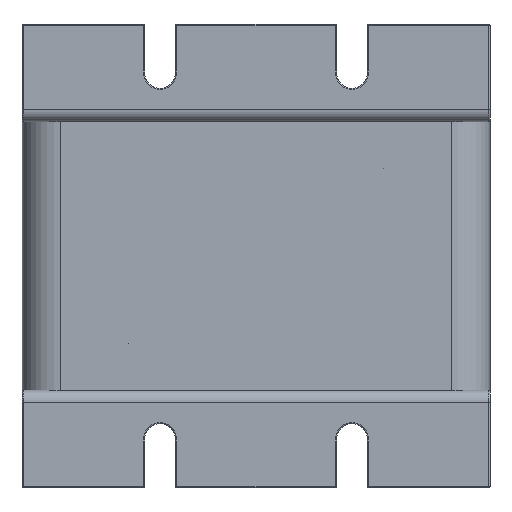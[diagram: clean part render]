
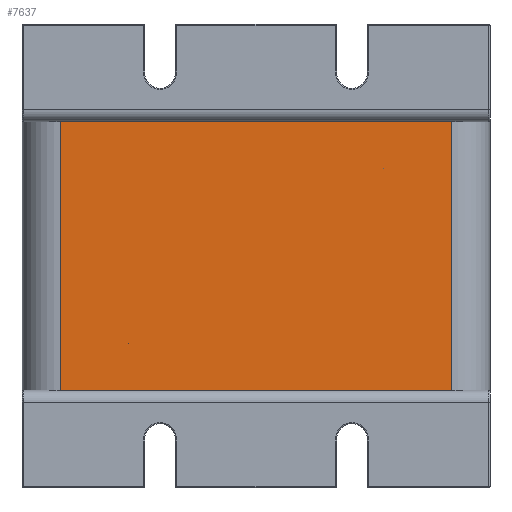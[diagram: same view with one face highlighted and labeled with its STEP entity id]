
A CAD part, front view. The second image highlights one B-rep face of the part: STEP entity #7637.
In plain terms, the highlighted planar face has unit normal (0, -1, 0).
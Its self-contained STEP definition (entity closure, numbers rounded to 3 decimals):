
#759=FACE_OUTER_BOUND('',#1240,.T.);
#1240=EDGE_LOOP('',(#5207,#5208,#5209,#5210));
#2129=LINE('',#11497,#2740);
#2142=LINE('',#11535,#2753);
#2144=LINE('',#11539,#2755);
#2145=LINE('',#11540,#2756);
#2740=VECTOR('',#9217,10.);
#2753=VECTOR('',#9244,10.);
#2755=VECTOR('',#9248,10.);
#2756=VECTOR('',#9249,10.);
#3352=VERTEX_POINT('',#11494);
#3353=VERTEX_POINT('',#11496);
#3371=VERTEX_POINT('',#11533);
#3372=VERTEX_POINT('',#11538);
#4057=EDGE_CURVE('',#3352,#3353,#2129,.T.);
#4076=EDGE_CURVE('',#3371,#3352,#2142,.T.);
#4078=EDGE_CURVE('',#3371,#3372,#2144,.T.);
#4079=EDGE_CURVE('',#3372,#3353,#2145,.T.);
#5207=ORIENTED_EDGE('',*,*,#4078,.T.);
#5208=ORIENTED_EDGE('',*,*,#4079,.T.);
#5209=ORIENTED_EDGE('',*,*,#4057,.F.);
#5210=ORIENTED_EDGE('',*,*,#4076,.F.);
#7439=PLANE('',#8384);
#7637=ADVANCED_FACE('',(#759),#7439,.T.);
#8384=AXIS2_PLACEMENT_3D('',#11537,#9246,#9247);
#9217=DIRECTION('',(1.,0.,0.));
#9244=DIRECTION('',(0.,0.,1.));
#9246=DIRECTION('center_axis',(0.,-1.,0.));
#9247=DIRECTION('ref_axis',(1.,0.,0.));
#9248=DIRECTION('',(1.,0.,0.));
#9249=DIRECTION('',(0.,0.,1.));
#11494=CARTESIAN_POINT('',(10.,0.,70.));
#11496=CARTESIAN_POINT('',(112.,0.,70.));
#11497=CARTESIAN_POINT('',(10.,0.,70.));
#11533=CARTESIAN_POINT('',(10.,0.,0.));
#11535=CARTESIAN_POINT('',(10.,0.,0.));
#11537=CARTESIAN_POINT('Origin',(10.,0.,0.));
#11538=CARTESIAN_POINT('',(112.,0.,0.));
#11539=CARTESIAN_POINT('',(10.,0.,0.));
#11540=CARTESIAN_POINT('',(112.,0.,0.));
